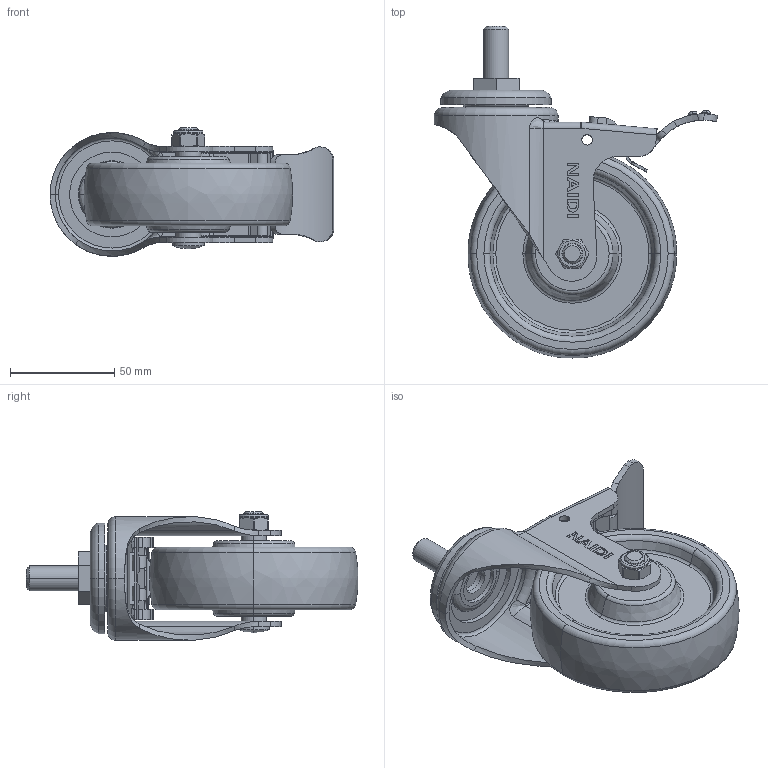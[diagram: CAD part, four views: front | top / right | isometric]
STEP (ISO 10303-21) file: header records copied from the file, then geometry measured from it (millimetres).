
FILE_DESCRIPTION((''),'2;1');
FILE_NAME('C54144L_ASM','2024-10-10T',('Lenovo'),(''),'PRO/ENGINEER BY PARAMETRIC TECHNOLOGY CORPORATION, 2010280','PRO/ENGINEER BY PARAMETRIC TECHNOLOGY CORPORATION, 2010280','');
FILE_SCHEMA(('CONFIG_CONTROL_DESIGN'));
Length unit declared in the file: millimetre
Products named in the file (11): C544-12; 550-23M12X25; 500-36; C540-03; C544-906; 500-54; 5710-020; 5710-031; 540-14; 540-13; C54144L_ASM
Assembly tree (11 placements, depth 2):
  C54144L_ASM
    C544-12
    550-23M12X25
    500-36  x2
    C540-03
    C544-906
    500-54
    5710-020
    5710-031
    540-14
    540-13
Bounding box: 135.81 x 158.86 x 61.65 mm (x, y, z)
Volume: 246205.2 mm3; surface area: 77173.6 mm2
Topology: 17 solids, 17 shells, 512 faces, 1166 edges, 699 vertices
Faces by surface type: plane 237, cylinder 156, torus 34, bspline 34, cone 32, extrusion 13, sphere 6
Entity records: 17131 total; most frequent: CARTESIAN_POINT 5624, DIRECTION 2369, ORIENTED_EDGE 2304, EDGE_CURVE 1152, AXIS2_PLACEMENT_3D 857, VERTEX_POINT 691, VECTOR 655, LINE 642
